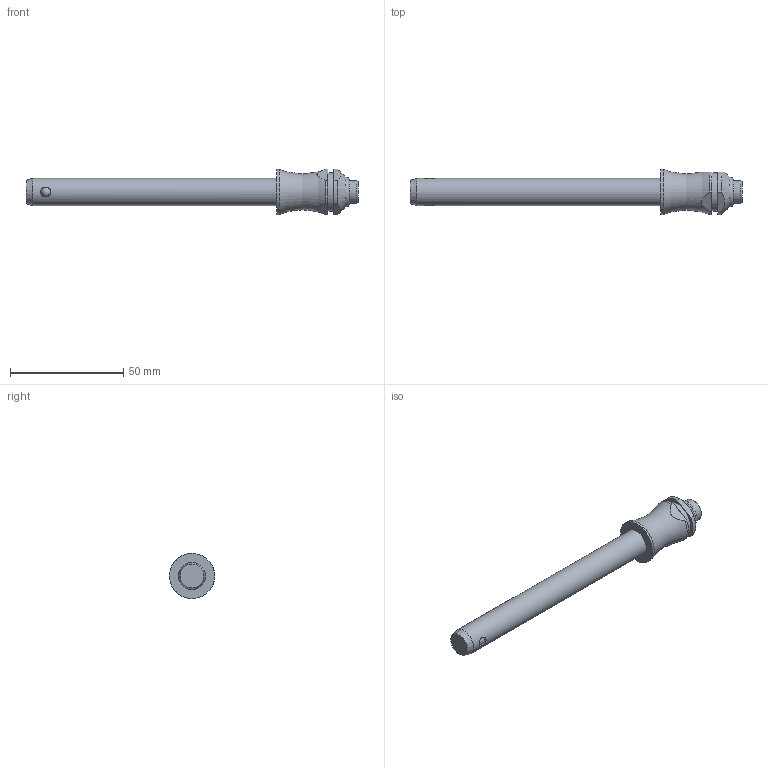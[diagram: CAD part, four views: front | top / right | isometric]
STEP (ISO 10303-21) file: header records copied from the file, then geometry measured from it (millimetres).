
FILE_DESCRIPTION( ( 'STEP AP203' ), '1' );
FILE_NAME( 'C:/Temp/Ganter_Step_05_03_2020/data/3_1/gn113_3/Stainless Steel-Ball lock pin GN 113.3-12-100 (activated).stp', '2020-03-12T08:18:48', ( 'License CC BY-ND 4.0' ), ( 'CADENAS' ), ' ', 'PARTsolutions', ' ' );
FILE_SCHEMA( ( 'CONFIG_CONTROL_DESIGN' ) );
Length unit declared in the file: millimetre
Products named in the file (1): _Stainless Steel-Ball lock pin GN 113.3-12-100 (activated)
Bounding box: 146.35 x 20 x 20 mm (x, y, z)
Volume: 20113.8 mm3; surface area: 6686.3 mm2
Topology: 1 solids, 1 shells, 30 faces, 72 edges, 45 vertices
Faces by surface type: cylinder 12, plane 11, cone 3, torus 2, sphere 2
Full cylindrical faces by diameter (mm): 4.4 x2, 10 x1, 12 x1, 17 x1, 20 x1
Entity records: 1010 total; most frequent: CARTESIAN_POINT 360, DIRECTION 130, ORIENTED_EDGE 102, AXIS2_PLACEMENT_3D 56, EDGE_CURVE 51, EDGE_LOOP 46, VERTEX_POINT 40, FACE_OUTER_BOUND 38
